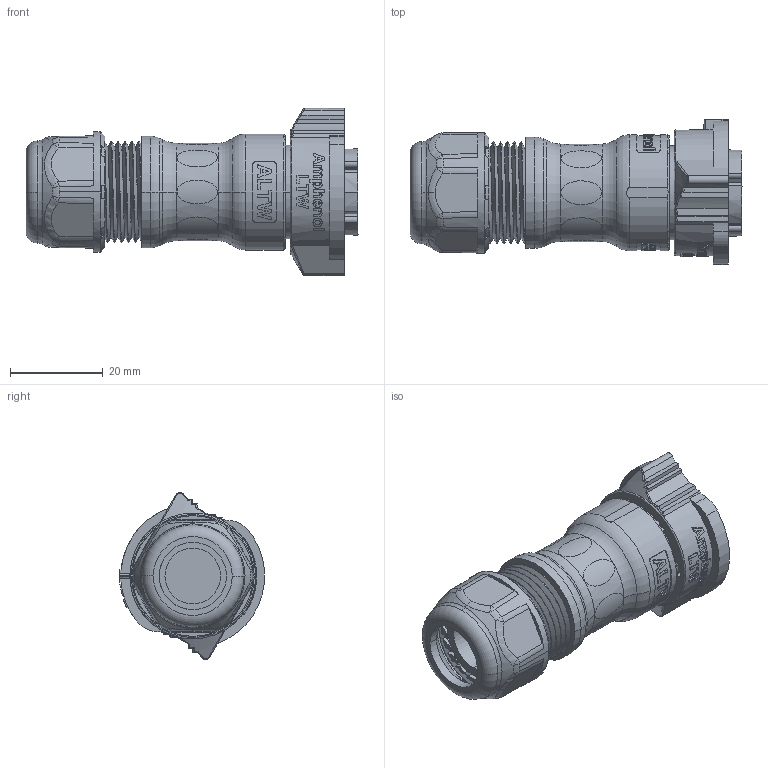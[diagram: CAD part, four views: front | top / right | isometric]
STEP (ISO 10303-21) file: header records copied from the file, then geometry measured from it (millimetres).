
FILE_DESCRIPTION((''),'2;1');
FILE_NAME('DC-02BFFA-QL8MNP','2021-10-27T',('L210038'),(''),'PRO/ENGINEER BY PARAMETRIC TECHNOLOGY CORPORATION, 2017170','PRO/ENGINEER BY PARAMETRIC TECHNOLOGY CORPORATION, 2017170','');
FILE_SCHEMA(('CONFIG_CONTROL_DESIGN'));
Products named in the file (1): DC-02BFFA-QL8MNP
Bounding box: 71.55 x 31.26 x 36 mm (x, y, z)
Volume: 23044.2 mm3; surface area: 15575.8 mm2
Topology: 1 solids, 1 shells, 1231 faces, 3552 edges, 2351 vertices
Faces by surface type: plane 411, extrusion 244, cylinder 238, bspline 190, cone 92, torus 44, sphere 12
Entity records: 61146 total; most frequent: CARTESIAN_POINT 28135, ORIENTED_EDGE 7104, DIRECTION 4517, EDGE_CURVE 3552, VERTEX_POINT 2351, B_SPLINE_CURVE_WITH_KNOTS 1807, VECTOR 1543, AXIS2_PLACEMENT_3D 1487
